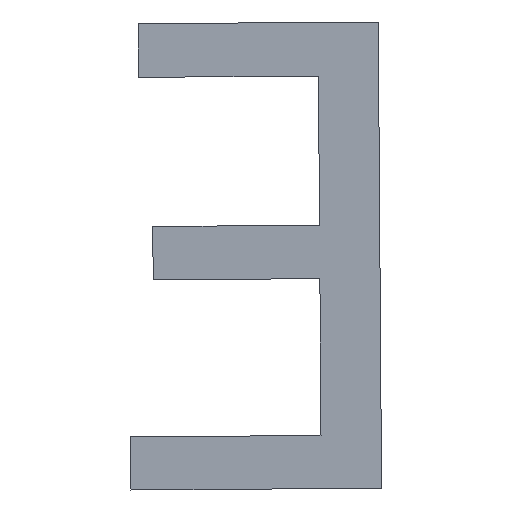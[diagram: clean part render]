
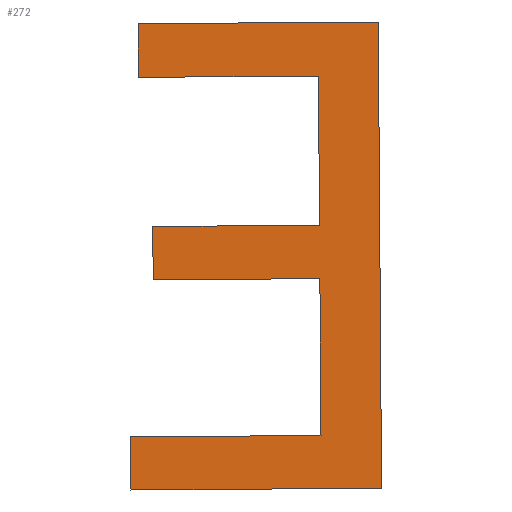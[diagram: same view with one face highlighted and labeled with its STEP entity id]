
A CAD part, front view. The second image highlights one B-rep face of the part: STEP entity #272.
In plain terms, the highlighted planar face has unit normal (0, -1, 0).
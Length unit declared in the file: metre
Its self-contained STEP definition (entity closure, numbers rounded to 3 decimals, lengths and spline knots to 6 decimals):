
#12=ORIENTED_EDGE('',*,*,#84,.F.);
#13=ORIENTED_EDGE('',*,*,#85,.F.);
#14=ORIENTED_EDGE('',*,*,#86,.F.);
#15=ORIENTED_EDGE('',*,*,#87,.F.);
#16=ORIENTED_EDGE('',*,*,#88,.F.);
#17=ORIENTED_EDGE('',*,*,#89,.F.);
#18=ORIENTED_EDGE('',*,*,#90,.F.);
#19=ORIENTED_EDGE('',*,*,#91,.F.);
#20=ORIENTED_EDGE('',*,*,#92,.F.);
#21=ORIENTED_EDGE('',*,*,#93,.F.);
#22=ORIENTED_EDGE('',*,*,#94,.F.);
#23=ORIENTED_EDGE('',*,*,#95,.F.);
#84=EDGE_CURVE('',#120,#121,#144,.T.);
#85=EDGE_CURVE('',#122,#120,#145,.T.);
#86=EDGE_CURVE('',#123,#122,#146,.T.);
#87=EDGE_CURVE('',#124,#123,#147,.T.);
#88=EDGE_CURVE('',#125,#124,#148,.T.);
#89=EDGE_CURVE('',#126,#125,#149,.T.);
#90=EDGE_CURVE('',#127,#126,#150,.T.);
#91=EDGE_CURVE('',#128,#127,#151,.T.);
#92=EDGE_CURVE('',#129,#128,#152,.T.);
#93=EDGE_CURVE('',#130,#129,#153,.T.);
#94=EDGE_CURVE('',#131,#130,#154,.T.);
#95=EDGE_CURVE('',#121,#131,#155,.T.);
#120=VERTEX_POINT('',#467);
#121=VERTEX_POINT('',#468);
#122=VERTEX_POINT('',#470);
#123=VERTEX_POINT('',#472);
#124=VERTEX_POINT('',#474);
#125=VERTEX_POINT('',#476);
#126=VERTEX_POINT('',#478);
#127=VERTEX_POINT('',#480);
#128=VERTEX_POINT('',#482);
#129=VERTEX_POINT('',#484);
#130=VERTEX_POINT('',#486);
#131=VERTEX_POINT('',#488);
#144=LINE('',#466,#180);
#145=LINE('',#469,#181);
#146=LINE('',#471,#182);
#147=LINE('',#473,#183);
#148=LINE('',#475,#184);
#149=LINE('',#477,#185);
#150=LINE('',#479,#186);
#151=LINE('',#481,#187);
#152=LINE('',#483,#188);
#153=LINE('',#485,#189);
#154=LINE('',#487,#190);
#155=LINE('',#489,#191);
#180=VECTOR('',#402,1.);
#181=VECTOR('',#403,1.);
#182=VECTOR('',#404,1.);
#183=VECTOR('',#405,1.);
#184=VECTOR('',#406,1.);
#185=VECTOR('',#407,1.);
#186=VECTOR('',#408,1.);
#187=VECTOR('',#409,1.);
#188=VECTOR('',#410,1.);
#189=VECTOR('',#411,1.);
#190=VECTOR('',#412,1.);
#191=VECTOR('',#413,1.);
#216=EDGE_LOOP('',(#12,#13,#14,#15,#16,#17,#18,#19,#20,#21,#22,#23));
#230=FACE_BOUND('',#216,.T.);
#244=PLANE('',#384);
#272=ADVANCED_FACE('',(#230),#244,.T.);
#384=AXIS2_PLACEMENT_3D('',#465,#400,#401);
#400=DIRECTION('',(0.,-1.,0.));
#401=DIRECTION('',(0.,0.,-1.));
#402=DIRECTION('',(-0.007,0.,1.));
#403=DIRECTION('',(-1.,0.,-0.007));
#404=DIRECTION('',(0.007,0.,-1.));
#405=DIRECTION('',(1.,0.,0.007));
#406=DIRECTION('',(-0.007,0.,1.));
#407=DIRECTION('',(-1.,0.,-0.007));
#408=DIRECTION('',(-0.007,0.,1.));
#409=DIRECTION('',(1.,0.,0.007));
#410=DIRECTION('',(-0.007,0.,1.));
#411=DIRECTION('',(-1.,0.,-0.007));
#412=DIRECTION('',(-0.007,0.,1.));
#413=DIRECTION('',(1.,0.,0.007));
#465=CARTESIAN_POINT('',(-0.07802,-0.053656,0.0095));
#466=CARTESIAN_POINT('',(-0.079451,-0.053656,0.028141));
#467=CARTESIAN_POINT('',(-0.079451,-0.053656,0.028094));
#468=CARTESIAN_POINT('',(-0.079451,-0.053656,0.028141));
#469=CARTESIAN_POINT('',(-0.079451,-0.053656,0.028094));
#470=CARTESIAN_POINT('',(-0.079232,-0.053656,0.028096));
#471=CARTESIAN_POINT('',(-0.079232,-0.053656,0.028096));
#472=CARTESIAN_POINT('',(-0.079235,-0.053656,0.028503));
#473=CARTESIAN_POINT('',(-0.079235,-0.053656,0.028503));
#474=CARTESIAN_POINT('',(-0.079444,-0.053656,0.028501));
#475=CARTESIAN_POINT('',(-0.079444,-0.053656,0.028501));
#476=CARTESIAN_POINT('',(-0.079444,-0.053656,0.028454));
#477=CARTESIAN_POINT('',(-0.079444,-0.053656,0.028454));
#478=CARTESIAN_POINT('',(-0.079287,-0.053656,0.028456));
#479=CARTESIAN_POINT('',(-0.079287,-0.053656,0.028456));
#480=CARTESIAN_POINT('',(-0.079286,-0.053656,0.028325));
#481=CARTESIAN_POINT('',(-0.079286,-0.053656,0.028325));
#482=CARTESIAN_POINT('',(-0.079431,-0.053656,0.028324));
#483=CARTESIAN_POINT('',(-0.079431,-0.053656,0.028324));
#484=CARTESIAN_POINT('',(-0.079431,-0.053656,0.028278));
#485=CARTESIAN_POINT('',(-0.079431,-0.053656,0.028278));
#486=CARTESIAN_POINT('',(-0.079286,-0.053656,0.028279));
#487=CARTESIAN_POINT('',(-0.079286,-0.053656,0.028279));
#488=CARTESIAN_POINT('',(-0.079285,-0.053656,0.028142));
#489=CARTESIAN_POINT('',(-0.079285,-0.053656,0.028142));
